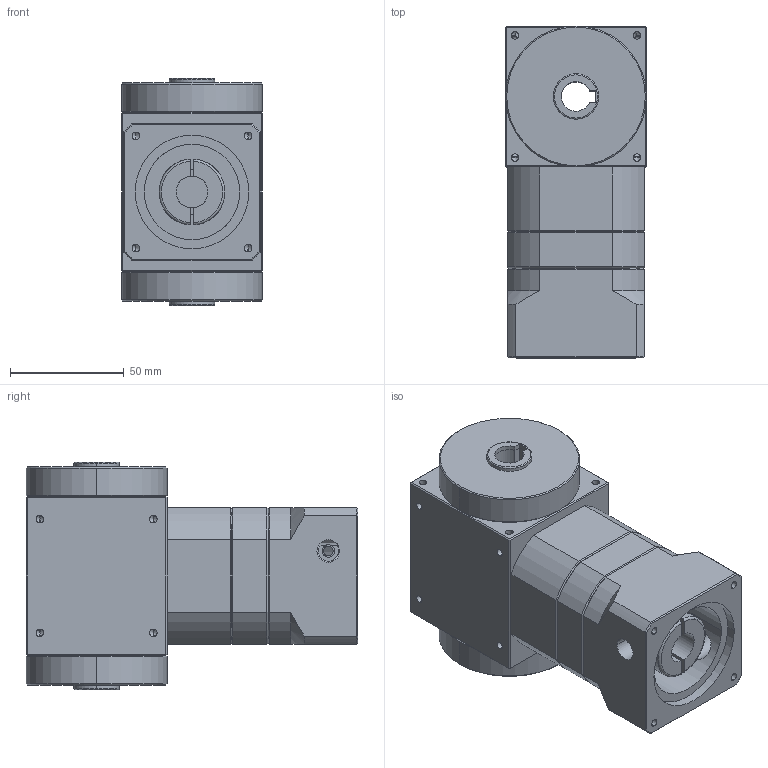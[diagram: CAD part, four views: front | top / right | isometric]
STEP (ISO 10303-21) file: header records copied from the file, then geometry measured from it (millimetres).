
FILE_DESCRIPTION (( 'STEP AP203' ), '1' );
FILE_NAME ('KHT60-H-L2£r50PCD£r70M4.STEP', '2014-03-24T05:16:36', ( 'KELLY' ), ( '' ), 'SwSTEP 2.0', 'SolidWorks 2012', '' );
FILE_SCHEMA (( 'CONFIG_CONTROL_DESIGN' ));
Length unit declared in the file: millimetre
Products named in the file (1): KHT60-H-L2｣r50PCD｣r70M4
Bounding box: 62 x 146 x 100 mm (x, y, z)
Volume: 572894.8 mm3; surface area: 89974.8 mm2
Topology: 6 solids, 6 shells, 302 faces, 752 edges, 422 vertices
Faces by surface type: cylinder 117, plane 97, cone 80, torus 8
Entity records: 9488 total; most frequent: CARTESIAN_POINT 2558, DIRECTION 1430, ORIENTED_EDGE 1408, EDGE_CURVE 704, AXIS2_PLACEMENT_3D 547, VERTEX_POINT 422, EDGE_LOOP 352, VECTOR 336
